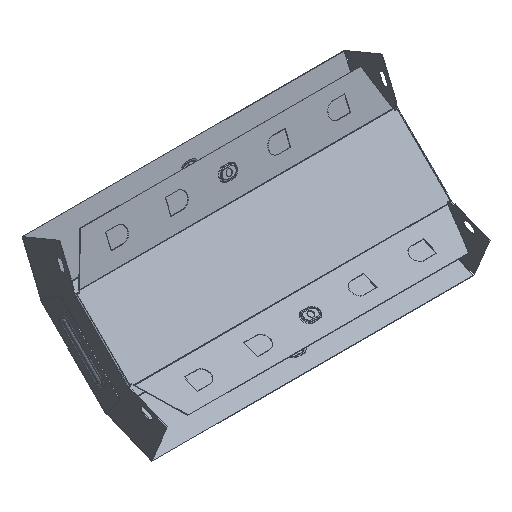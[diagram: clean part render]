
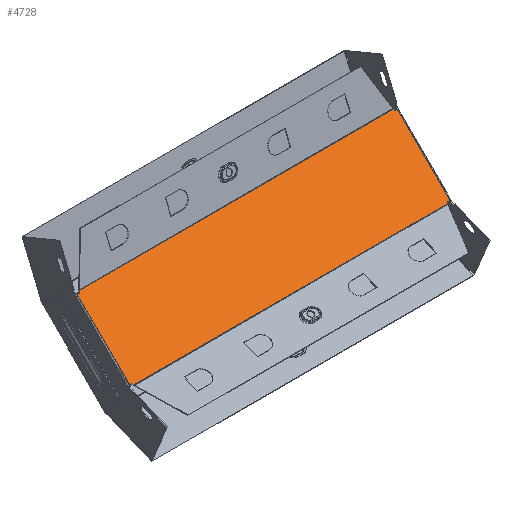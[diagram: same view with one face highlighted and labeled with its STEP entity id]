
A CAD part, isometric view. The second image highlights one B-rep face of the part: STEP entity #4728.
In plain terms, the highlighted planar face has unit normal (0, -0.707, 0.707).
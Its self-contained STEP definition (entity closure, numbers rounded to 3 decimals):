
#181 = CARTESIAN_POINT ( 'NONE',  ( 173.5, -33.327, -105.445 ) ) ;
#277 = CARTESIAN_POINT ( 'NONE',  ( -200.299, 69.859, -2.258 ) ) ;
#342 = EDGE_CURVE ( 'NONE', #6774, #4481, #4593, .T. ) ;
#552 = DIRECTION ( 'NONE',  ( 0.383, -0.653, -0.653 ) ) ;
#678 = EDGE_CURVE ( 'NONE', #6903, #2040, #1669, .T. ) ;
#740 = DIRECTION ( 'NONE',  ( -0.383, 0.653, 0.653 ) ) ;
#778 = CARTESIAN_POINT ( 'NONE',  ( 198.2, 69.245, -2.873 ) ) ;
#1134 = CARTESIAN_POINT ( 'NONE',  ( -194.345, 69.859, -2.258 ) ) ;
#1192 = CARTESIAN_POINT ( 'NONE',  ( 200.299, 69.859, -2.258 ) ) ;
#1193 = CARTESIAN_POINT ( 'NONE',  ( 198.2, 2.258, -69.859 ) ) ;
#1354 = CARTESIAN_POINT ( 'NONE',  ( -194.345, 2.258, -69.859 ) ) ;
#1356 = CARTESIAN_POINT ( 'NONE',  ( -195.217, 3.747, -68.371 ) ) ;
#1619 = ORIENTED_EDGE ( 'NONE', *, *, #678, .T. ) ;
#1662 = CARTESIAN_POINT ( 'NONE',  ( -198.2, 70., -2.118 ) ) ;
#1663 = LINE ( 'NONE', #4741, #10796 ) ;
#1669 = LINE ( 'NONE', #1356, #6013 ) ;
#1728 = DIRECTION ( 'NONE',  ( -1., 0., 0. ) ) ;
#1857 = VECTOR ( 'NONE', #11037, 1000. ) ;
#2040 = VERTEX_POINT ( 'NONE', #1354 ) ;
#2042 = EDGE_CURVE ( 'NONE', #2826, #7056, #6839, .T. ) ;
#2219 = EDGE_CURVE ( 'NONE', #2725, #5561, #3805, .T. ) ;
#2331 = CARTESIAN_POINT ( 'NONE',  ( 195.217, 68.371, -3.747 ) ) ;
#2725 = VERTEX_POINT ( 'NONE', #4378 ) ;
#2762 = CARTESIAN_POINT ( 'NONE',  ( 200.299, 2.258, -69.859 ) ) ;
#2826 = VERTEX_POINT ( 'NONE', #778 ) ;
#2827 = ORIENTED_EDGE ( 'NONE', *, *, #2219, .T. ) ;
#2852 = CARTESIAN_POINT ( 'NONE',  ( 194.345, 69.859, -2.258 ) ) ;
#2876 = LINE ( 'NONE', #181, #6495 ) ;
#3021 = VERTEX_POINT ( 'NONE', #10234 ) ;
#3511 = VECTOR ( 'NONE', #6243, 1000. ) ;
#3515 = LINE ( 'NONE', #1193, #7995 ) ;
#3677 = LINE ( 'NONE', #10696, #8437 ) ;
#3718 = CARTESIAN_POINT ( 'NONE',  ( 194.345, 2.258, -69.859 ) ) ;
#3790 = DIRECTION ( 'NONE',  ( 0.383, 0.653, 0.653 ) ) ;
#3805 = LINE ( 'NONE', #1662, #3511 ) ;
#3813 = CARTESIAN_POINT ( 'NONE',  ( -195.217, 3.747, -68.371 ) ) ;
#3855 = LINE ( 'NONE', #10724, #5439 ) ;
#3889 = VERTEX_POINT ( 'NONE', #3718 ) ;
#3932 = VERTEX_POINT ( 'NONE', #11183 ) ;
#4297 = EDGE_CURVE ( 'NONE', #3021, #5643, #6909, .T. ) ;
#4303 = ORIENTED_EDGE ( 'NONE', *, *, #7465, .T. ) ;
#4378 = CARTESIAN_POINT ( 'NONE',  ( -198.2, 69.245, -2.873 ) ) ;
#4481 = VERTEX_POINT ( 'NONE', #1134 ) ;
#4508 = CARTESIAN_POINT ( 'NONE',  ( 198.2, 70., -2.118 ) ) ;
#4593 = LINE ( 'NONE', #5489, #8321 ) ;
#4728 = ADVANCED_FACE ( 'NONE', ( #6467 ), #9401, .F. ) ;
#4741 = CARTESIAN_POINT ( 'NONE',  ( -195.217, 68.371, -3.747 ) ) ;
#4845 = VECTOR ( 'NONE', #11003, 1000. ) ;
#4988 = DIRECTION ( 'NONE',  ( -0.924, -0.271, -0.271 ) ) ;
#5439 = VECTOR ( 'NONE', #740, 1000. ) ;
#5489 = CARTESIAN_POINT ( 'NONE',  ( 198.2, 69.859, -2.258 ) ) ;
#5526 = EDGE_CURVE ( 'NONE', #4481, #3932, #1663, .T. ) ;
#5561 = VERTEX_POINT ( 'NONE', #11442 ) ;
#5643 = VERTEX_POINT ( 'NONE', #6900 ) ;
#5658 = ORIENTED_EDGE ( 'NONE', *, *, #6187, .F. ) ;
#6013 = VECTOR ( 'NONE', #552, 1000. ) ;
#6095 = EDGE_CURVE ( 'NONE', #5561, #6903, #3677, .T. ) ;
#6187 = EDGE_CURVE ( 'NONE', #2826, #5643, #6584, .T. ) ;
#6243 = DIRECTION ( 'NONE',  ( 0., -0.707, -0.707 ) ) ;
#6333 = EDGE_LOOP ( 'NONE', ( #11312, #8304, #5658, #11554, #9974, #10262, #7821, #4303, #2827, #9092, #1619, #6601 ) ) ;
#6467 = FACE_OUTER_BOUND ( 'NONE', #6333, .T. ) ;
#6495 = VECTOR ( 'NONE', #3790, 1000. ) ;
#6540 = EDGE_CURVE ( 'NONE', #3889, #2040, #3515, .T. ) ;
#6584 = LINE ( 'NONE', #4508, #4845 ) ;
#6601 = ORIENTED_EDGE ( 'NONE', *, *, #6540, .F. ) ;
#6774 = VERTEX_POINT ( 'NONE', #2852 ) ;
#6839 = LINE ( 'NONE', #1192, #7262 ) ;
#6900 = CARTESIAN_POINT ( 'NONE',  ( 198.2, 2.873, -69.245 ) ) ;
#6903 = VERTEX_POINT ( 'NONE', #3813 ) ;
#6909 = LINE ( 'NONE', #2762, #1857 ) ;
#7056 = VERTEX_POINT ( 'NONE', #2331 ) ;
#7262 = VECTOR ( 'NONE', #4988, 1000. ) ;
#7465 = EDGE_CURVE ( 'NONE', #3932, #2725, #10274, .T. ) ;
#7665 = DIRECTION ( 'NONE',  ( -1., 0., 0. ) ) ;
#7821 = ORIENTED_EDGE ( 'NONE', *, *, #5526, .T. ) ;
#7977 = EDGE_CURVE ( 'NONE', #3889, #3021, #2876, .T. ) ;
#7995 = VECTOR ( 'NONE', #7665, 1000. ) ;
#8304 = ORIENTED_EDGE ( 'NONE', *, *, #4297, .T. ) ;
#8321 = VECTOR ( 'NONE', #1728, 1000. ) ;
#8437 = VECTOR ( 'NONE', #8750, 1000. ) ;
#8750 = DIRECTION ( 'NONE',  ( 0.924, 0.271, 0.271 ) ) ;
#9092 = ORIENTED_EDGE ( 'NONE', *, *, #6095, .T. ) ;
#9279 = CARTESIAN_POINT ( 'NONE',  ( 198.2, 70., -2.118 ) ) ;
#9401 = PLANE ( 'NONE',  #9975 ) ;
#9939 = EDGE_CURVE ( 'NONE', #7056, #6774, #3855, .T. ) ;
#9974 = ORIENTED_EDGE ( 'NONE', *, *, #9939, .T. ) ;
#9975 = AXIS2_PLACEMENT_3D ( 'NONE', #9279, #10263, #11056 ) ;
#10234 = CARTESIAN_POINT ( 'NONE',  ( 195.217, 3.747, -68.371 ) ) ;
#10238 = DIRECTION ( 'NONE',  ( -0.383, -0.653, -0.653 ) ) ;
#10262 = ORIENTED_EDGE ( 'NONE', *, *, #342, .T. ) ;
#10263 = DIRECTION ( 'NONE',  ( 0., 0.707, -0.707 ) ) ;
#10274 = LINE ( 'NONE', #277, #10404 ) ;
#10404 = VECTOR ( 'NONE', #11243, 1000. ) ;
#10696 = CARTESIAN_POINT ( 'NONE',  ( -200.299, 2.258, -69.859 ) ) ;
#10724 = CARTESIAN_POINT ( 'NONE',  ( 173.5, 105.445, 33.327 ) ) ;
#10796 = VECTOR ( 'NONE', #10238, 1000. ) ;
#11003 = DIRECTION ( 'NONE',  ( 0., -0.707, -0.707 ) ) ;
#11037 = DIRECTION ( 'NONE',  ( 0.924, -0.271, -0.271 ) ) ;
#11056 = DIRECTION ( 'NONE',  ( 0., 0.707, 0.707 ) ) ;
#11183 = CARTESIAN_POINT ( 'NONE',  ( -195.217, 68.371, -3.747 ) ) ;
#11243 = DIRECTION ( 'NONE',  ( -0.924, 0.271, 0.271 ) ) ;
#11312 = ORIENTED_EDGE ( 'NONE', *, *, #7977, .T. ) ;
#11442 = CARTESIAN_POINT ( 'NONE',  ( -198.2, 2.873, -69.245 ) ) ;
#11554 = ORIENTED_EDGE ( 'NONE', *, *, #2042, .T. ) ;
